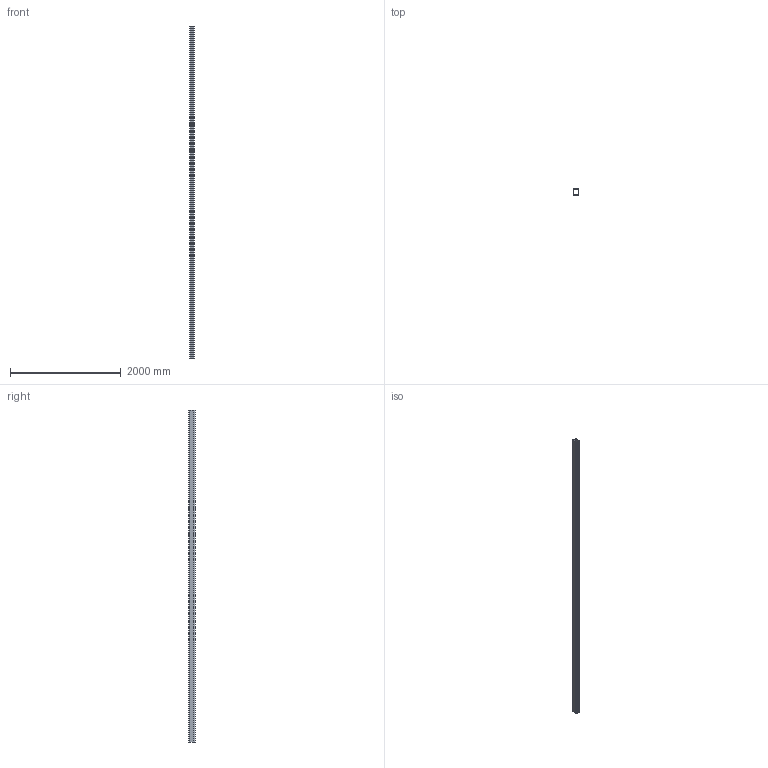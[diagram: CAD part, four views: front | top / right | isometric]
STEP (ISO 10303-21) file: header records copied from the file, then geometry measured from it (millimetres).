
FILE_DESCRIPTION(/* description */ ('Profilrohr Nr.5 - 6m'),/* implementation_level */ '2;1');
FILE_NAME(/* name */ 'Q:\sge-ma\Produktmanagement-STB\STB\Workspace\stp\010337037.stp',/* time_stamp */ '2016-06-28T12:13:36+02:00',/* author */ ('avschreier'),/* organization */ (''),/* preprocessor_version */ 'ST-DEVELOPER v16.1',/* originating_system */ 'Autodesk Inventor 2016',/* authorisation */ '');
FILE_SCHEMA (('AUTOMOTIVE_DESIGN { 1 0 10303 214 3 1 1 }'));
Length unit declared in the file: millimetre
Products named in the file (1): 010337037
Bounding box: 90 x 110 x 6000 mm (x, y, z)
Volume: 13445979.6 mm3; surface area: 3930190.4 mm2
Topology: 1 solids, 1 shells, 30 faces, 84 edges, 56 vertices
Faces by surface type: plane 18, cylinder 12
Entity records: 996 total; most frequent: CARTESIAN_POINT 171, DIRECTION 170, ORIENTED_EDGE 168, EDGE_CURVE 84, LINE 60, VECTOR 60, VERTEX_POINT 56, AXIS2_PLACEMENT_3D 55
